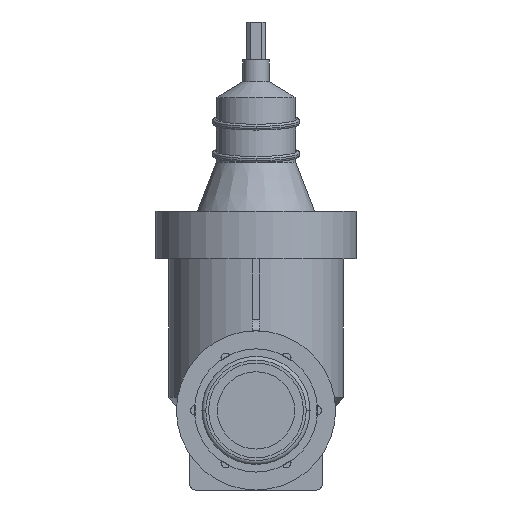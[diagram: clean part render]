
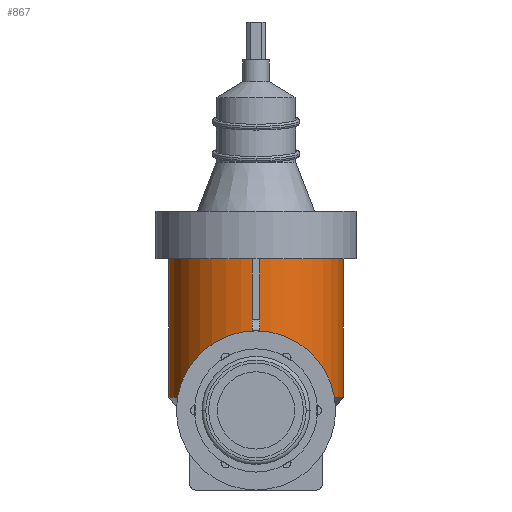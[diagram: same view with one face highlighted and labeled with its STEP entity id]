
A CAD part, left-side view. The second image highlights one B-rep face of the part: STEP entity #867.
In plain terms, the highlighted cylindrical face has radius 46 mm (diameter 92 mm), a partial arc.
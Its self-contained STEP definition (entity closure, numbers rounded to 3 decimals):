
#867=ADVANCED_FACE('',(#1581),#1582,.T.);
#1581=FACE_OUTER_BOUND('',#2408,.T.);
#1582=CYLINDRICAL_SURFACE('',#2409,46.0);
#2408=EDGE_LOOP('',(#3632,#3633,#3634,#3635));
#2409=AXIS2_PLACEMENT_3D('',#3636,#3637,#3638);
#3632=ORIENTED_EDGE('',*,*,#4664,.T.);
#3633=ORIENTED_EDGE('',*,*,#4677,.T.);
#3634=ORIENTED_EDGE('',*,*,#4665,.T.);
#3635=ORIENTED_EDGE('',*,*,#4385,.T.);
#3636=CARTESIAN_POINT('',(0.0,0.,7.0));
#3637=DIRECTION('',(0.0,0.,1.0));
#3638=DIRECTION('',(0.0,-1.0,0.));
#4385=EDGE_CURVE('',#5102,#5101,#5104,.T.);
#4664=EDGE_CURVE('',#5101,#5502,#5503,.T.);
#4665=EDGE_CURVE('',#5504,#5102,#5505,.T.);
#4677=EDGE_CURVE('',#5502,#5504,#5517,.T.);
#5101=VERTEX_POINT('',#6027);
#5102=VERTEX_POINT('',#6028);
#5104=CIRCLE('',#6030,46.0);
#5502=VERTEX_POINT('',#6517);
#5503=LINE('',#6518,#6519);
#5504=VERTEX_POINT('',#6520);
#5505=LINE('',#6521,#6522);
#5517=CIRCLE('',#6535,46.0);
#6027=CARTESIAN_POINT('',(0.0,-46.0,7.0));
#6028=CARTESIAN_POINT('',(0.,46.0,7.0));
#6030=AXIS2_PLACEMENT_3D('',#6970,#6971,#6972);
#6517=CARTESIAN_POINT('',(0.0,-46.0,80.0));
#6518=CARTESIAN_POINT('',(0.,-46.0,7.0));
#6519=VECTOR('',#7341,1.0);
#6520=CARTESIAN_POINT('',(0.,46.0,80.0));
#6521=CARTESIAN_POINT('',(0.,46.0,7.0));
#6522=VECTOR('',#7342,1.0);
#6535=AXIS2_PLACEMENT_3D('',#7353,#7354,#7355);
#6970=CARTESIAN_POINT('',(0.0,0.,7.0));
#6971=DIRECTION('',(0.0,0.,1.0));
#6972=DIRECTION('',(0.0,-1.0,0.));
#7341=DIRECTION('',(0.0,0.,1.0));
#7342=DIRECTION('',(-0.0,0.,-1.0));
#7353=CARTESIAN_POINT('',(0.0,0.,80.0));
#7354=DIRECTION('',(-0.0,0.,-1.0));
#7355=DIRECTION('',(0.0,-1.0,0.));
